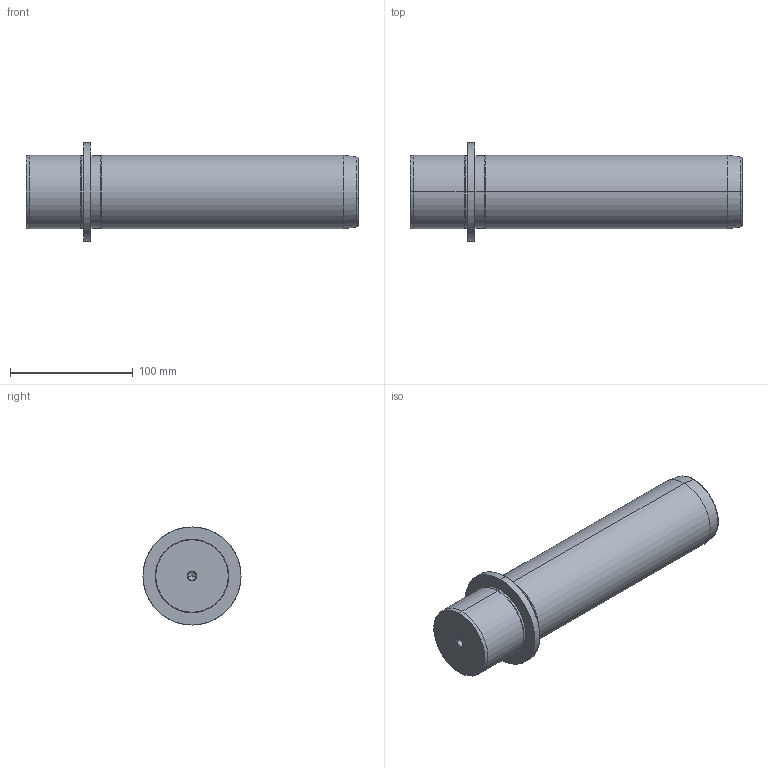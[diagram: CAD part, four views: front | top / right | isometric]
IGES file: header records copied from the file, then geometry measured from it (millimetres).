
Start section: START RECORD GO HERE.
Global section: file name: 719-60x224.igs; native system: DASSAULT SYSTEMES CATIA V5 R20 - www.3ds.com; preprocessor: CATIA Version 5 Release 20 ; author: Utente; organization: NB04-ASUS; date: 20210103.155256; units: millimetre
Bounding box: 271 x 80 x 80 mm (x, y, z)
Surface area: 62260.6 mm2 (no closed solid volume)
Topology: 0 solids, 0 shells, 36 faces, 196 edges, 192 vertices
Faces by surface type: revolution 32, plane 4
